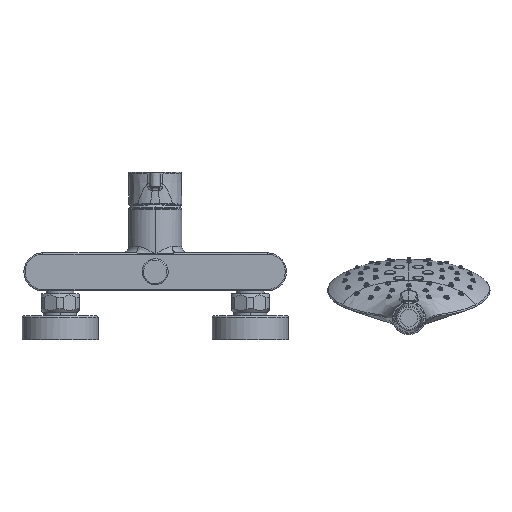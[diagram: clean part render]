
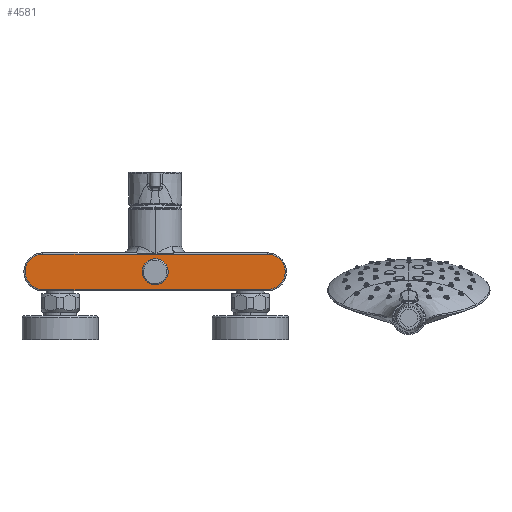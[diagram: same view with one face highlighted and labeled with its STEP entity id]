
A CAD part, front view. The second image highlights one B-rep face of the part: STEP entity #4581.
In plain terms, the highlighted planar face has unit normal (0, -1, 0).
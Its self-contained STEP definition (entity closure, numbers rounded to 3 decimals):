
#1116=DIRECTION('',(-1.,0.,0.));
#1117=VECTOR('',#1116,88.5);
#1118=CARTESIAN_POINT('',(0.,-21.,14.));
#1119=LINE('',#1118,#1117);
#1129=CARTESIAN_POINT('',(88.5,-21.,0.));
#1130=DIRECTION('',(0.,1.,0.));
#1131=DIRECTION('',(0.,0.,1.));
#1132=AXIS2_PLACEMENT_3D('',#1129,#1130,#1131);
#1134=CARTESIAN_POINT('',(88.5,-21.,0.));
#1135=DIRECTION('',(0.,1.,0.));
#1136=DIRECTION('',(0.032,0.,0.999));
#1137=AXIS2_PLACEMENT_3D('',#1134,#1135,#1136);
#1139=CARTESIAN_POINT('',(-88.5,-21.,0.));
#1140=DIRECTION('',(0.,1.,0.));
#1141=DIRECTION('',(0.,0.,-1.));
#1142=AXIS2_PLACEMENT_3D('',#1139,#1140,#1141);
#1144=CARTESIAN_POINT('',(-88.5,-21.,0.));
#1145=DIRECTION('',(0.,1.,0.));
#1146=DIRECTION('',(-0.032,0.,-0.999));
#1147=AXIS2_PLACEMENT_3D('',#1144,#1145,#1146);
#1149=CARTESIAN_POINT('',(0.,-21.,0.));
#1150=DIRECTION('',(0.,-1.,0.));
#1151=DIRECTION('',(-0.999,0.,-0.034));
#1152=AXIS2_PLACEMENT_3D('',#1149,#1150,#1151);
#1154=CARTESIAN_POINT('',(0.,-21.,0.));
#1155=DIRECTION('',(0.,-1.,0.));
#1156=DIRECTION('',(0.999,0.,0.034));
#1157=AXIS2_PLACEMENT_3D('',#1154,#1155,#1156);
#1163=DIRECTION('',(-1.,0.,0.));
#1164=VECTOR('',#1163,88.5);
#1165=CARTESIAN_POINT('',(88.5,-21.,14.));
#1166=LINE('',#1165,#1164);
#1293=DIRECTION('',(1.,0.,0.));
#1294=VECTOR('',#1293,177.);
#1295=CARTESIAN_POINT('',(-88.5,-21.,-14.));
#1296=LINE('',#1295,#1294);
#2519=CARTESIAN_POINT('',(88.948,-21.,13.993));
#2520=CARTESIAN_POINT('',(88.5,-21.,-14.));
#2521=VERTEX_POINT('',#2519);
#2522=VERTEX_POINT('',#2520);
#2523=CARTESIAN_POINT('',(88.5,-21.,14.));
#2524=VERTEX_POINT('',#2523);
#2525=CARTESIAN_POINT('',(0.,-21.,14.));
#2526=VERTEX_POINT('',#2525);
#2527=CARTESIAN_POINT('',(-88.5,-21.,-14.));
#2528=VERTEX_POINT('',#2527);
#2529=CARTESIAN_POINT('',(-88.948,-21.,-13.993));
#2530=CARTESIAN_POINT('',(-88.5,-21.,14.));
#2531=VERTEX_POINT('',#2529);
#2532=VERTEX_POINT('',#2530);
#2533=CARTESIAN_POINT('',(-10.244,-21.,-0.344));
#2534=CARTESIAN_POINT('',(10.244,-21.,0.344));
#2535=VERTEX_POINT('',#2533);
#2536=VERTEX_POINT('',#2534);
#4555=CARTESIAN_POINT('',(-103.5,-21.,15.));
#4556=DIRECTION('',(0.,-1.,0.));
#4557=DIRECTION('',(0.,0.,-1.));
#4558=AXIS2_PLACEMENT_3D('',#4555,#4556,#4557);
#4559=PLANE('',#4558);
#4561=ORIENTED_EDGE('',*,*,#4560,.F.);
#4563=ORIENTED_EDGE('',*,*,#4562,.T.);
#4565=ORIENTED_EDGE('',*,*,#4564,.T.);
#4567=ORIENTED_EDGE('',*,*,#4566,.F.);
#4569=ORIENTED_EDGE('',*,*,#4568,.T.);
#4571=ORIENTED_EDGE('',*,*,#4570,.T.);
#4572=ORIENTED_EDGE('',*,*,#4472,.F.);
#4573=EDGE_LOOP('',(#4561,#4563,#4565,#4567,#4569,#4571,#4572));
#4574=FACE_OUTER_BOUND('',#4573,.F.);
#4576=ORIENTED_EDGE('',*,*,#4575,.T.);
#4578=ORIENTED_EDGE('',*,*,#4577,.T.);
#4579=EDGE_LOOP('',(#4576,#4578));
#4580=FACE_BOUND('',#4579,.F.);
#4581=ADVANCED_FACE('',(#4574,#4580),#4559,.T.);
#1133=CIRCLE('',#1132,14.);
#1138=CIRCLE('',#1137,14.);
#1143=CIRCLE('',#1142,14.);
#1148=CIRCLE('',#1147,14.);
#1153=CIRCLE('',#1152,10.25);
#1158=CIRCLE('',#1157,10.25);
#4472=EDGE_CURVE('',#2526,#2532,#1119,.T.);
#4560=EDGE_CURVE('',#2524,#2526,#1166,.T.);
#4562=EDGE_CURVE('',#2524,#2521,#1133,.T.);
#4564=EDGE_CURVE('',#2521,#2522,#1138,.T.);
#4566=EDGE_CURVE('',#2528,#2522,#1296,.T.);
#4568=EDGE_CURVE('',#2528,#2531,#1143,.T.);
#4570=EDGE_CURVE('',#2531,#2532,#1148,.T.);
#4575=EDGE_CURVE('',#2535,#2536,#1153,.T.);
#4577=EDGE_CURVE('',#2536,#2535,#1158,.T.);
